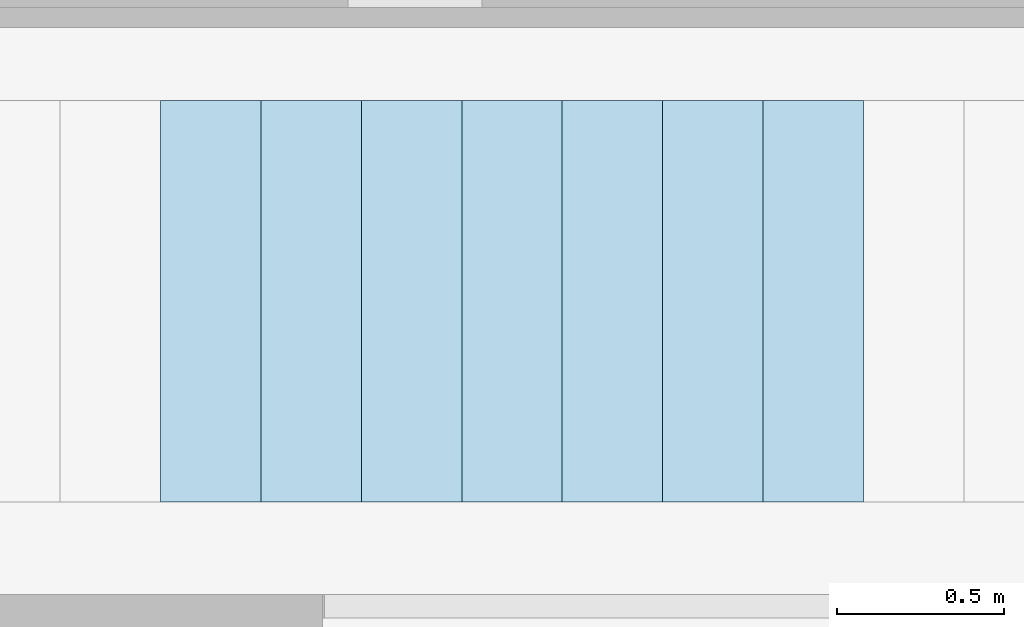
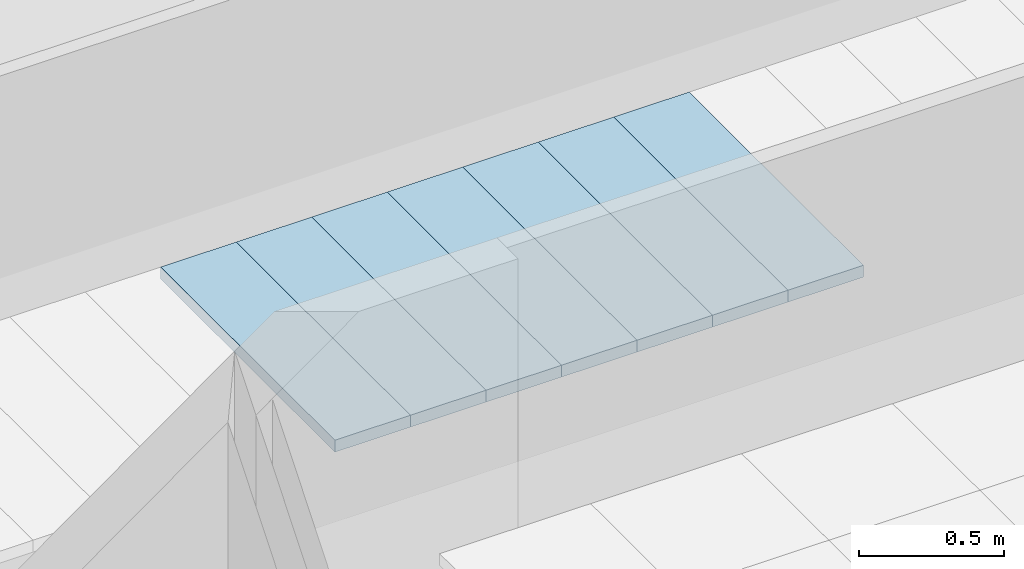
# One storey, part 3 of 60: 7 slabs.
"""IFC2X3 building model written with IfcOpenShell, lengths in millimetres."""

from ifc_helpers import new_model, entity, si_unit, converted_unit, derived_unit, money_unit, direction, frame, origin_with_axes, place, context, subcontext, project, spatial, polyline, outline, extrude, material, layer, layer_set, layer_usage, type_object, element, save


model = new_model("IFC2X3")

# Units and contexts
model_context = context("Model", 3, precision=0.01, world=origin_with_axes(), true_north=direction((0.0, 1.0)))
body_context = subcontext(model_context, "Body", "Model", "MODEL_VIEW")
ifc_project = project(units=[si_unit("LENGTHUNIT", "METRE", prefix="MILLI"), si_unit("AREAUNIT", "SQUARE_METRE"), si_unit("VOLUMEUNIT", "CUBIC_METRE"), converted_unit("PLANEANGLEUNIT", "DEGREE", entity("IfcPlaneAngleMeasure", 0.0174532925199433), si_unit("PLANEANGLEUNIT", "RADIAN"), dimensions=[0, 0, 0, 0, 0, 0, 0]), money_unit("USD"), converted_unit("TIMEUNIT", "Year", entity("IfcTimeMeasure", 31557600.0), si_unit("TIMEUNIT", "SECOND"), dimensions=[0, 0, 1, 0, 0, 0, 0]), si_unit("MASSUNIT", "GRAM", prefix="KILO"), si_unit("THERMODYNAMICTEMPERATUREUNIT", "DEGREE_CELSIUS"), si_unit("LUMINOUSINTENSITYUNIT", "LUMEN"), si_unit("ENERGYUNIT", "JOULE", prefix="MEGA"), derived_unit("THERMALCONDUCTANCEUNIT", [(si_unit("POWERUNIT", "WATT"), 1), (si_unit("LENGTHUNIT", "METRE"), -1), (si_unit("THERMODYNAMICTEMPERATUREUNIT", "KELVIN"), -1)]), derived_unit("SPECIFICHEATCAPACITYUNIT", [(si_unit("ENERGYUNIT", "JOULE"), 1), (si_unit("MASSUNIT", "GRAM", prefix="KILO"), -1), (si_unit("THERMODYNAMICTEMPERATUREUNIT", "KELVIN"), -1)]), derived_unit("MASSDENSITYUNIT", [(si_unit("MASSUNIT", "GRAM", prefix="KILO"), 1), (si_unit("VOLUMEUNIT", "CUBIC_METRE"), -1)])], contexts=[model_context])

# Site, building, storey
site_placement = place(None, origin_with_axes())
site = spatial("IfcSite", under=ifc_project, at=site_placement, Name="Sitio", CompositionType="ELEMENT")
building_placement = place(site_placement, origin_with_axes())
building = spatial("IfcBuilding", under=site, at=building_placement, Name="Construcción", CompositionType="ELEMENT")
storey_placement = place(building_placement, frame((0.0, 0.0, 3650.0), z_axis=(0.0, 0.0, 1.0), x_axis=(1.0, 0.0, 0.0)))
storey = spatial("IfcBuildingStorey", under=building, at=storey_placement, Name="PLANTA 2ª", CompositionType="ELEMENT", Elevation=3650.0)

# Slabs
ifc_material = material(Name="ARQ_ME126_CelRas_Placa_Metallica")
ifc_layer = layer(ifc_material, 50.0, ventilated="UNKNOWN")
ifc_layer_set = layer_set([ifc_layer], Name="ARQ_ME126_CelRas_Placa_Metallica 50")
ifc_layer_usage_1 = layer_usage(ifc_layer_set, "AXIS3", "NEGATIVE", 50.0)
slab_type = type_object("IfcSlabType", Name="ARQ_ME126_CelRas_Placa_Metallica 50", PredefinedType="NOTDEFINED")
slab_1_placement = place(storey_placement, frame((-22170.23708222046, 3586.50452866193, 2500.0), z_axis=(0.0, 0.0, 1.0), x_axis=(1.0, 0.0, 0.0)))
element("IfcSlab", 1, at=slab_1_placement, inside=storey, type_object=slab_type, material=ifc_layer_usage_1, Name="SLA - 026", PredefinedType="NOTDEFINED", context=body_context, shape_type="SweptSolid", body=[
    extrude(outline(polyline([(0.0, 0.0), (0.0, -1199.999999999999), (300.0000000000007, -1199.999999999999), (300.0000000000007, 0.0), (0.0, 0.0)])), frame((0.0, 0.0, -50.0), z_axis=(0.0, 0.0, 1.0), x_axis=(1.0, 0.0, 0.0)), (0.0, 0.0, 1.0), 50.0),
])
ifc_layer_usage_2 = layer_usage(ifc_layer_set, "AXIS3", "NEGATIVE", 50.0)
slab_2_placement = place(storey_placement, frame((-21870.23708222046, 3586.50452866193, 2500.0), z_axis=(0.0, 0.0, 1.0), x_axis=(1.0, 0.0, 0.0)))
element("IfcSlab", 2, at=slab_2_placement, inside=storey, type_object=slab_type, material=ifc_layer_usage_2, Name="SLA - 026", PredefinedType="NOTDEFINED", context=body_context, shape_type="SweptSolid", body=[
    extrude(outline(polyline([(0.0, 0.0), (0.0, -1199.999999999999), (300.0000000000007, -1199.999999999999), (300.0000000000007, 0.0), (0.0, 0.0)])), frame((0.0, 0.0, -50.0), z_axis=(0.0, 0.0, 1.0), x_axis=(1.0, 0.0, 0.0)), (0.0, 0.0, 1.0), 50.0),
])
ifc_layer_usage_3 = layer_usage(ifc_layer_set, "AXIS3", "NEGATIVE", 50.0)
slab_3_placement = place(storey_placement, frame((-21270.23708222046, 3586.50452866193, 2500.0), z_axis=(0.0, 0.0, 1.0), x_axis=(1.0, 0.0, 0.0)))
element("IfcSlab", 3, at=slab_3_placement, inside=storey, type_object=slab_type, material=ifc_layer_usage_3, Name="SLA - 026", PredefinedType="NOTDEFINED", context=body_context, shape_type="SweptSolid", body=[
    extrude(outline(polyline([(0.0, 0.0), (0.0, -1199.999999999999), (300.0000000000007, -1199.999999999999), (300.0000000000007, 0.0), (0.0, 0.0)])), frame((0.0, 0.0, -50.0), z_axis=(0.0, 0.0, 1.0), x_axis=(1.0, 0.0, 0.0)), (0.0, 0.0, 1.0), 50.0),
])
ifc_layer_usage_4 = layer_usage(ifc_layer_set, "AXIS3", "NEGATIVE", 50.0)
slab_4_placement = place(storey_placement, frame((-22470.23708222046, 3586.50452866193, 2500.0), z_axis=(0.0, 0.0, 1.0), x_axis=(1.0, 0.0, 0.0)))
element("IfcSlab", 4, at=slab_4_placement, inside=storey, type_object=slab_type, material=ifc_layer_usage_4, Name="SLA - 026", PredefinedType="NOTDEFINED", context=body_context, shape_type="SweptSolid", body=[
    extrude(outline(polyline([(0.0, 0.0), (0.0, -1199.999999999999), (300.0000000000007, -1199.999999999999), (300.0000000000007, 0.0), (0.0, 0.0)])), frame((0.0, 0.0, -50.0), z_axis=(0.0, 0.0, 1.0), x_axis=(1.0, 0.0, 0.0)), (0.0, 0.0, 1.0), 50.0),
])
ifc_layer_usage_5 = layer_usage(ifc_layer_set, "AXIS3", "NEGATIVE", 50.0)
slab_5_placement = place(storey_placement, frame((-20970.23708222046, 3586.50452866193, 2500.0), z_axis=(0.0, 0.0, 1.0), x_axis=(1.0, 0.0, 0.0)))
element("IfcSlab", 5, at=slab_5_placement, inside=storey, type_object=slab_type, material=ifc_layer_usage_5, Name="SLA - 026", PredefinedType="NOTDEFINED", context=body_context, shape_type="SweptSolid", body=[
    extrude(outline(polyline([(0.0, 0.0), (0.0, -1199.999999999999), (300.0000000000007, -1199.999999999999), (300.0000000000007, 0.0), (0.0, 0.0)])), frame((0.0, 0.0, -50.0), z_axis=(0.0, 0.0, 1.0), x_axis=(1.0, 0.0, 0.0)), (0.0, 0.0, 1.0), 50.0),
])
ifc_layer_usage_6 = layer_usage(ifc_layer_set, "AXIS3", "NEGATIVE", 50.0)
slab_6_placement = place(storey_placement, frame((-20670.23708222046, 3586.50452866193, 2500.0), z_axis=(0.0, 0.0, 1.0), x_axis=(1.0, 0.0, 0.0)))
element("IfcSlab", 6, at=slab_6_placement, inside=storey, type_object=slab_type, material=ifc_layer_usage_6, Name="SLA - 026", PredefinedType="NOTDEFINED", context=body_context, shape_type="SweptSolid", body=[
    extrude(outline(polyline([(0.0, 0.0), (0.0, -1199.999999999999), (300.0000000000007, -1199.999999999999), (300.0000000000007, 0.0), (0.0, 0.0)])), frame((0.0, 0.0, -50.0), z_axis=(0.0, 0.0, 1.0), x_axis=(1.0, 0.0, 0.0)), (0.0, 0.0, 1.0), 50.0),
])
ifc_layer_usage_7 = layer_usage(ifc_layer_set, "AXIS3", "NEGATIVE", 50.0)
slab_7_placement = place(storey_placement, frame((-21570.23708222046, 3586.50452866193, 2500.0), z_axis=(0.0, 0.0, 1.0), x_axis=(1.0, 0.0, 0.0)))
element("IfcSlab", 7, at=slab_7_placement, inside=storey, type_object=slab_type, material=ifc_layer_usage_7, Name="SLA - 026", PredefinedType="NOTDEFINED", context=body_context, shape_type="SweptSolid", body=[
    extrude(outline(polyline([(0.0, 0.0), (0.0, -1199.999999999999), (300.0000000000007, -1199.999999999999), (300.0000000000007, 0.0), (0.0, 0.0)])), frame((0.0, 0.0, -50.0), z_axis=(0.0, 0.0, 1.0), x_axis=(1.0, 0.0, 0.0)), (0.0, 0.0, 1.0), 50.0),
])

save(model, "model.ifc")
